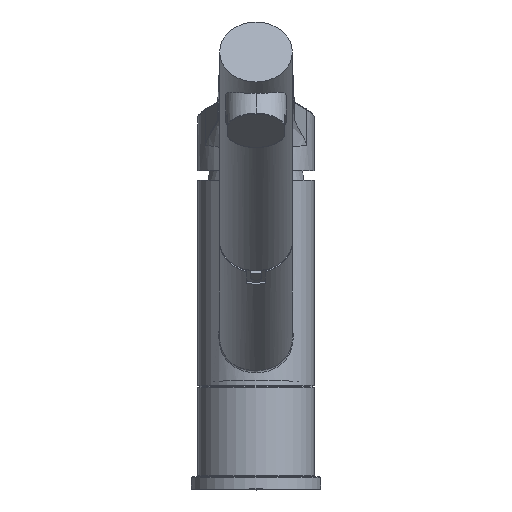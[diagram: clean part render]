
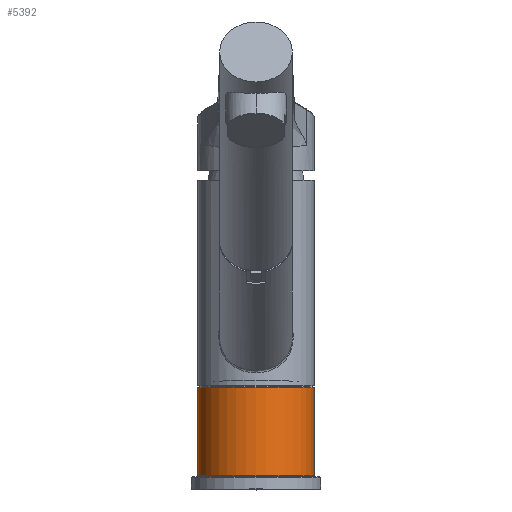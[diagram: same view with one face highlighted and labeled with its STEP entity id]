
A CAD part, top view. The second image highlights one B-rep face of the part: STEP entity #5392.
In plain terms, the highlighted cylindrical face has radius 22.5 mm (diameter 45 mm), a partial arc.
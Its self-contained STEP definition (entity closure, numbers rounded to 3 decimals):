
#4916=CARTESIAN_POINT('',(0.,3.9,0.));
#4917=DIRECTION('',(0.,1.,0.));
#4918=DIRECTION('',(-1.,0.,0.));
#4919=AXIS2_PLACEMENT_3D('',#4916,#4917,#4918);
#4921=DIRECTION('',(0.,1.,0.));
#4922=VECTOR('',#4921,34.);
#4923=CARTESIAN_POINT('',(22.5,-30.1,
0.));
#4924=LINE('',#4923,#4922);
#4925=CARTESIAN_POINT('',(0.,-30.1,0.));
#4926=DIRECTION('',(0.,1.,0.));
#4927=DIRECTION('',(-1.,0.,0.));
#4928=AXIS2_PLACEMENT_3D('',#4925,#4926,#4927);
#4930=DIRECTION('',(0.,1.,0.));
#4931=VECTOR('',#4930,34.);
#4932=CARTESIAN_POINT('',(-22.5,-30.1,
0.));
#4933=LINE('',#4932,#4931);
#5088=CARTESIAN_POINT('',(22.5,3.9,0.));
#5089=CARTESIAN_POINT('',(-22.5,3.9,0.));
#5090=VERTEX_POINT('',#5088);
#5091=VERTEX_POINT('',#5089);
#5092=CARTESIAN_POINT('',(22.5,-30.1,0.));
#5093=CARTESIAN_POINT('',(-22.5,-30.1,0.));
#5094=VERTEX_POINT('',#5092);
#5095=VERTEX_POINT('',#5093);
#5378=CARTESIAN_POINT('',(0.,-32.35,0.));
#5379=DIRECTION('',(0.,1.,0.));
#5380=DIRECTION('',(1.,0.,0.));
#5381=AXIS2_PLACEMENT_3D('',#5378,#5379,#5380);
#5382=CYLINDRICAL_SURFACE('',#5381,22.5);
#5383=ORIENTED_EDGE('',*,*,#5372,.T.);
#5385=ORIENTED_EDGE('',*,*,#5384,.F.);
#5387=ORIENTED_EDGE('',*,*,#5386,.F.);
#5389=ORIENTED_EDGE('',*,*,#5388,.T.);
#5390=EDGE_LOOP('',(#5383,#5385,#5387,#5389));
#5391=FACE_OUTER_BOUND('',#5390,.F.);
#5392=ADVANCED_FACE('',(#5391),#5382,.T.);
#4920=CIRCLE('',#4919,22.5);
#4929=CIRCLE('',#4928,22.5);
#5372=EDGE_CURVE('',#5091,#5090,#4920,.T.);
#5384=EDGE_CURVE('',#5094,#5090,#4924,.T.);
#5386=EDGE_CURVE('',#5095,#5094,#4929,.T.);
#5388=EDGE_CURVE('',#5095,#5091,#4933,.T.);
